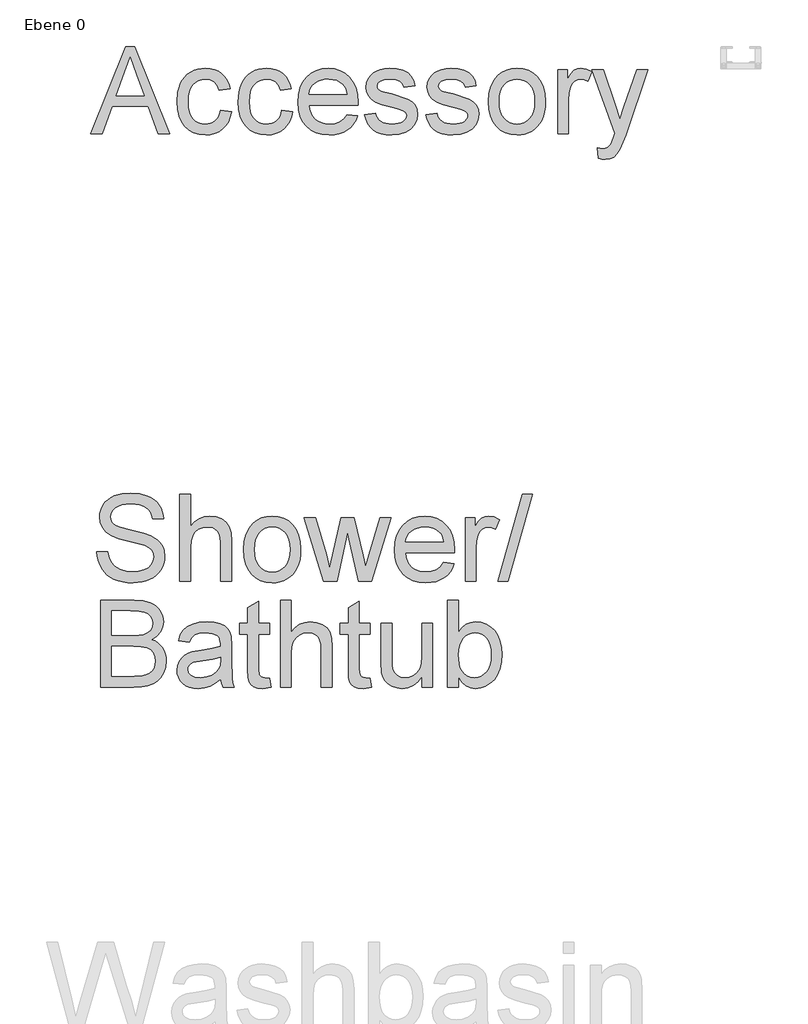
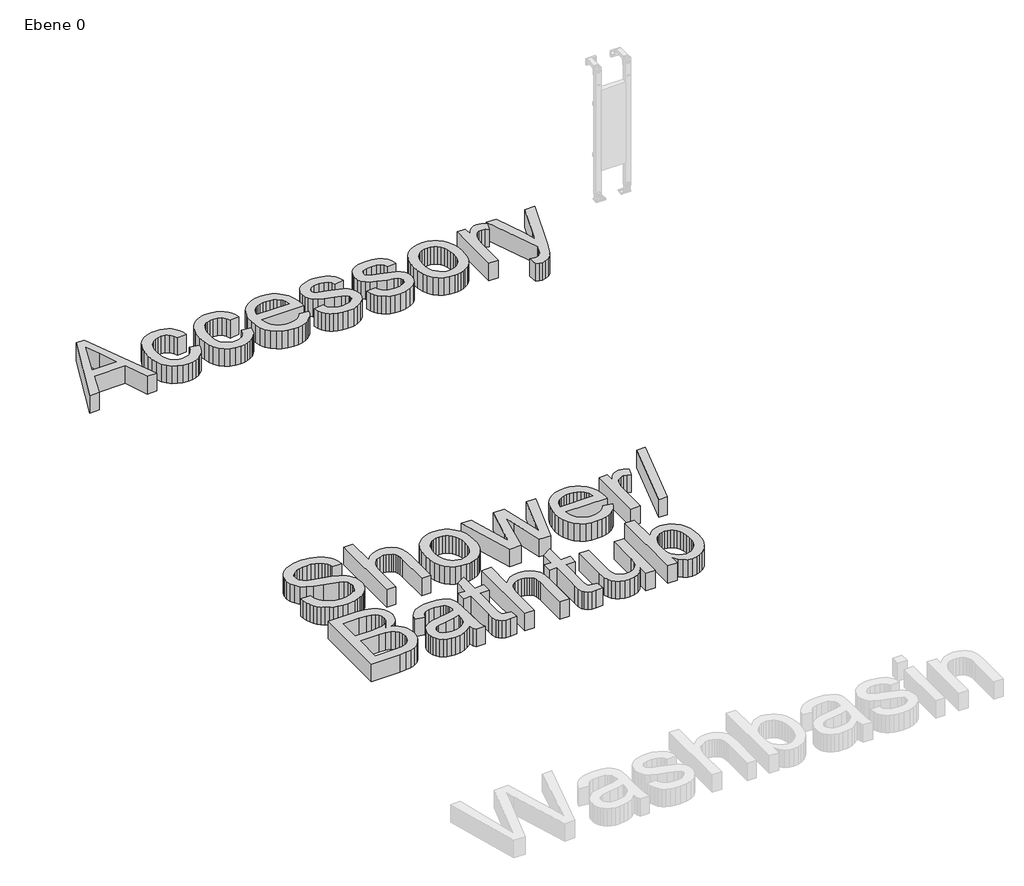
# One storey, part 2 of 2: 2 proxies.
"""IFC4 building model written with IfcOpenShell, lengths in millimetres."""

from ifc_helpers import new_model, si_unit, origin, origin_with_axes, place, context, project, spatial, polyline, outline, extrude, element, save

model = new_model("IFC4")

# Units and contexts
model_context = context("Model", 3, world=origin())
ifc_project = project(units=[si_unit("LENGTHUNIT", "METRE", prefix="MILLI")], contexts=[model_context])

# Site, building, storey
site = spatial("IfcSite", under=ifc_project)
building = spatial("IfcBuilding", under=site)
storey = spatial("IfcBuildingStorey", under=building, Name="Ebene 0", Elevation=0.0)

# Proxies
placement = place(None, origin())
element("IfcBuildingElementProxy", 1, Name="600mm Arial", ObjectType="600mm Arial", at=placement, inside=storey, context=model_context, shape_type="SweptSolid", body=[
    extrude(outline(polyline([(-4365.4096997, 14200.0), (-4124.8148749, 14802.7378609), (-4060.6562549, 14802.7378609), (-3820.2085829, 14200.0), (-3899.8182466, 14200.0), (-3968.6857561, 14388.3555815), (-4217.0796793, 14388.3555815), (-4285.9471888, 14200.0), (-4365.4096997, 14200.0)]), holes=[polyline([(-4189.4149532, 14463.6978141), (-3996.2033294, 14463.6978141), (-4050.6498646, 14611.8806818), (-4092.8827177, 14727.3956283), (-4130.4066812, 14624.830128), (-4189.4149532, 14463.6978141)])]), origin_with_axes(), (0.0, 0.0, 1.0), 150.0),
    extrude(outline(polyline([(-3466.6004091, 14360.1022443), (-3391.2581765, 14350.6844652), (-3399.4527479, 14315.1332689), (-3412.2642384, 14283.6747598), (-3429.6926479, 14256.3089379), (-3451.7379765, 14233.0358032), (-3477.4713221, 14214.4623609), (-3505.9637826, 14201.1956165), (-3537.2153581, 14193.2355698), (-3571.2260485, 14190.5822209), (-3613.4818942, 14194.2840335), (-3651.3691412, 14205.3894712), (-3684.8877895, 14223.8985341), (-3714.0378391, 14249.8112221), (-3737.6328705, 14282.6400917), (-3754.4864644, 14321.8976991), (-3764.5986208, 14367.5840444), (-3767.9693396, 14419.6991275), (-3762.2119863, 14486.7456211), (-3755.0152948, 14516.9165433), (-3744.9399267, 14544.8525823), (-3731.916904, 14569.9927181), (-3715.877249, 14591.7759308), (-3696.8209617, 14610.2022202), (-3674.748042, 14625.2715864), (-3650.6563698, 14636.988628), (-3625.5438251, 14645.3579434), (-3599.4104079, 14650.3795326), (-3572.2561181, 14652.0533957), (-3538.8294403, 14649.7541332), (-3508.5941389, 14642.8563458), (-3481.5502137, 14631.3600334), (-3457.6976648, 14615.2651962), (-3437.4411625, 14594.9397159), (-3421.1853768, 14570.7514747), (-3408.9303078, 14542.7004726), (-3400.6759556, 14510.7867095), (-3476.0181882, 14501.3689304), (-3489.6850043, 14534.2391867), (-3510.9669777, 14557.8020285), (-3538.6868861, 14571.9838794), (-3571.6675069, 14576.7111631), (-3597.2674953, 14574.3843094), (-3620.356689, 14567.4037486), (-3640.9350881, 14555.7694805), (-3659.0026926, 14539.4815051), (-3673.7133739, 14518.1627435), (-3684.2210034, 14491.4361166), (-3690.525581, 14459.3016243), (-3692.6271069, 14421.7592667), (-3690.5715663, 14383.6512905), (-3684.4049444, 14351.1443177), (-3674.1272411, 14324.2383483), (-3659.7384566, 14302.9333823), (-3642.029537, 14286.7419759), (-3621.7914288, 14275.1766857), (-3599.0241318, 14268.2375116), (-3573.7276461, 14265.9244535), (-3534.7137605, 14271.7002009), (-3517.8417725, 14278.919885), (-3502.726421, 14289.0274428), (-3489.7907704, 14302.1332389), (-3479.4578848, 14318.3476378), (-3471.7277644, 14337.6706396), (-3466.6004091, 14360.1022443)])), origin_with_axes(), (0.0, 0.0, 1.0), 150.0),
    extrude(outline(polyline([(-3042.8003507, 14360.1022443), (-2967.458118, 14350.6844652), (-2975.6526895, 14315.1332689), (-2988.46418, 14283.6747598), (-3005.8925895, 14256.3089379), (-3027.9379181, 14233.0358032), (-3053.6712636, 14214.4623609), (-3082.1637241, 14201.1956165), (-3113.4152996, 14193.2355698), (-3147.4259901, 14190.5822209), (-3189.6818358, 14194.2840335), (-3227.5690827, 14205.3894712), (-3261.087731, 14223.8985341), (-3290.2377806, 14249.8112221), (-3313.8328121, 14282.6400917), (-3330.686406, 14321.8976991), (-3340.7985623, 14367.5840444), (-3344.1692811, 14419.6991275), (-3338.4119279, 14486.7456211), (-3331.2152364, 14516.9165433), (-3321.1398682, 14544.8525823), (-3308.1168456, 14569.9927181), (-3292.0771906, 14591.7759308), (-3273.0209032, 14610.2022202), (-3250.9479835, 14625.2715864), (-3226.8563114, 14636.988628), (-3201.7437667, 14645.3579434), (-3175.6103494, 14650.3795326), (-3148.4560597, 14652.0533957), (-3115.0293819, 14649.7541332), (-3084.7940804, 14642.8563458), (-3057.7501552, 14631.3600334), (-3033.8976064, 14615.2651962), (-3013.641104, 14594.9397159), (-2997.3853184, 14570.7514747), (-2985.1302494, 14542.7004726), (-2976.8758971, 14510.7867095), (-3052.2181297, 14501.3689304), (-3065.8849459, 14534.2391867), (-3087.1669193, 14557.8020285), (-3114.8868276, 14571.9838794), (-3147.8674485, 14576.7111631), (-3173.4674368, 14574.3843094), (-3196.5566305, 14567.4037486), (-3217.1350297, 14555.7694805), (-3235.2026341, 14539.4815051), (-3249.9133154, 14518.1627435), (-3260.4209449, 14491.4361166), (-3266.7255226, 14459.3016243), (-3268.8270485, 14421.7592667), (-3266.7715079, 14383.6512905), (-3260.6048859, 14351.1443177), (-3250.3271827, 14324.2383483), (-3235.9383981, 14302.9333823), (-3218.2294786, 14286.7419759), (-3197.9913703, 14275.1766857), (-3175.2240734, 14268.2375116), (-3149.9275877, 14265.9244535), (-3110.9137021, 14271.7002009), (-3094.0417141, 14278.919885), (-3078.9263626, 14289.0274428), (-3065.9907119, 14302.1332389), (-3055.6578264, 14318.3476378), (-3047.927706, 14337.6706396), (-3042.8003507, 14360.1022443)])), origin_with_axes(), (0.0, 0.0, 1.0), 150.0),
    extrude(outline(polyline([(-2591.6298718, 14331.8489071), (-2517.7591671, 14322.431128), (-2529.0853341, 14292.8442185), (-2544.3754295, 14266.7705821), (-2563.6294534, 14244.2102188), (-2586.8474058, 14225.1631285), (-2613.7901635, 14210.0339814), (-2644.218603, 14199.2274478), (-2678.1327244, 14192.7435276), (-2715.5325278, 14190.5822209), (-2762.2811323, 14194.3116246), (-2803.9345712, 14205.4998358), (-2840.4928445, 14224.1468545), (-2871.9559521, 14250.2526805), (-2897.2570363, 14283.0907471), (-2915.3292393, 14321.9344873), (-2926.1725611, 14366.783901), (-2929.7870017, 14417.6389883), (-2926.1357729, 14470.2185225), (-2915.1820865, 14516.5624568), (-2896.9259425, 14556.6707914), (-2871.3673409, 14590.5435261), (-2839.9870067, 14617.454094), (-2804.265665, 14636.6759283), (-2764.2033157, 14648.2090288), (-2719.7999589, 14652.0533957), (-2676.8267433, 14648.2182259), (-2637.9646091, 14636.7127165), (-2603.2135561, 14617.5368675), (-2572.5735844, 14590.6906789), (-2547.5622073, 14556.8915206), (-2529.6969379, 14516.8567624), (-2518.9777763, 14470.5864045), (-2515.4047224, 14418.0804467), (-2515.8461808, 14397.7733606), (-2854.4447691, 14397.7733606), (-2850.080769, 14367.7082046), (-2841.4033524, 14341.3770507), (-2828.4125194, 14318.7798992), (-2811.1082701, 14299.9167499), (-2790.4470975, 14285.0451202), (-2767.385495, 14274.4225276), (-2741.9234624, 14268.0489721), (-2714.0609998, 14265.9244535), (-2673.9618623, 14269.8607909), (-2640.1902951, 14281.6698029), (-2612.7462983, 14302.0872537), (-2591.6298718, 14331.8489071)]), holes=[polyline([(-2854.4447691, 14473.1155932), (-2590.746955, 14473.1155932), (-2600.9372863, 14512.9204251), (-2609.7020748, 14528.573804), (-2620.9132786, 14541.3944915), (-2641.459488, 14556.8455353), (-2664.8383888, 14567.8819952), (-2691.049981, 14574.5038711), (-2720.0942645, 14576.7111631), (-2746.5863667, 14574.949928), (-2770.8803739, 14569.6662229), (-2792.9762863, 14560.8600476), (-2812.8741037, 14548.5314022), (-2829.5713477, 14533.2505039), (-2842.06554, 14515.5875696), (-2850.3566805, 14495.5425994), (-2854.4447691, 14473.1155932)])]), origin_with_axes(), (0.0, 0.0, 1.0), 150.0),
    extrude(outline(polyline([(-2468.315827, 14331.8489071), (-2392.9735944, 14341.2666861), (-2388.4210547, 14324.086597), (-2381.0910059, 14309.0402234), (-2370.9834481, 14296.1275653), (-2358.0983812, 14285.3486229), (-2342.3990171, 14276.8505488), (-2323.8485675, 14270.7804959), (-2278.1944119, 14265.9244535), (-2233.0920793, 14270.3758257), (-2215.5625022, 14275.9400409), (-2201.3806513, 14283.7299421), (-2182.6186695, 14303.080535), (-2177.9281741, 14313.9146598), (-2176.3646756, 14325.5213368), (-2177.9373712, 14335.6932739), (-2182.6554577, 14344.7247769), (-2201.5278041, 14359.3664803), (-2229.7443531, 14368.9314122), (-2279.0773287, 14380.8507888), (-2347.8344736, 14400.7348107), (-2392.532136, 14417.7125647), (-2421.2453257, 14436.2354232), (-2442.0490525, 14460.7547582), (-2454.6857991, 14489.7070712), (-2458.8980479, 14521.5288638), (-2455.5135336, 14550.7203001), (-2445.3599905, 14577.6676562), (-2429.3571237, 14601.3040744), (-2408.4246382, 14620.5626969), (-2387.6209114, 14632.6844086), (-2360.5264024, 14642.8563458), (-2329.2012505, 14649.7541332), (-2295.7055949, 14652.0533957), (-2246.6669249, 14648.3561816), (-2204.0294017, 14637.2645395), (-2169.7427997, 14619.8637211), (-2145.7568936, 14597.2389784), (-2129.8643914, 14567.7164483), (-2119.8580012, 14529.6222677), (-2195.2002338, 14520.2044886), (-2204.7099833, 14543.9144832), (-2223.5271474, 14561.7751541), (-2251.8356669, 14572.9771608), (-2289.8194829, 14576.7111631), (-2333.0824056, 14573.1427077), (-2361.924354, 14562.4373416), (-2378.14795, 14546.9862979), (-2383.5558153, 14529.1808093), (-2381.3117351, 14517.5925264), (-2374.5794946, 14507.2550424), (-2363.0647882, 14498.0212043), (-2346.4733102, 14490.6267762), (-2281.5789262, 14474.5871212), (-2170.9935985, 14439.1232969), (-2141.7837681, 14422.1639369), (-2119.637272, 14398.950583), (-2105.6761502, 14369.4096588), (-2101.022443, 14333.4675879), (-2106.4854906, 14296.3115063), (-2122.8746335, 14261.3627168), (-2149.5644723, 14231.3619401), (-2185.9296075, 14209.0498971), (-2229.8547177, 14195.19914), (-2279.2244815, 14190.5822209), (-2319.7742744, 14192.807907), (-2355.1921135, 14199.4849652), (-2385.4779987, 14210.6133956), (-2410.6319302, 14226.1931981), (-2431.1781396, 14246.1507963), (-2447.6408589, 14270.4126139), (-2460.020088, 14298.9786508), (-2468.315827, 14331.8489071)])), origin_with_axes(), (0.0, 0.0, 1.0), 150.0),
    extrude(outline(polyline([(-2044.5157686, 14331.8489071), (-1969.1735359, 14341.2666861), (-1964.6209962, 14324.086597), (-1957.2909475, 14309.0402234), (-1947.1833897, 14296.1275653), (-1934.2983228, 14285.3486229), (-1918.5989587, 14276.8505488), (-1900.048509, 14270.7804959), (-1854.3943534, 14265.9244535), (-1809.2920208, 14270.3758257), (-1791.7624438, 14275.9400409), (-1777.5805928, 14283.7299421), (-1758.8186111, 14303.080535), (-1754.1281157, 14313.9146598), (-1752.5646172, 14325.5213368), (-1754.1373127, 14335.6932739), (-1758.8553993, 14344.7247769), (-1777.7277456, 14359.3664803), (-1805.9442947, 14368.9314122), (-1855.2772702, 14380.8507888), (-1924.0344151, 14400.7348107), (-1968.7320775, 14417.7125647), (-1997.4452673, 14436.2354232), (-2018.2489941, 14460.7547582), (-2030.8857406, 14489.7070712), (-2035.0979895, 14521.5288638), (-2031.7134751, 14550.7203001), (-2021.5599321, 14577.6676562), (-2005.5570653, 14601.3040744), (-1984.6245797, 14620.5626969), (-1963.8208529, 14632.6844086), (-1936.726344, 14642.8563458), (-1905.4011921, 14649.7541332), (-1871.9055364, 14652.0533957), (-1822.8668665, 14648.3561816), (-1780.2293432, 14637.2645395), (-1745.9427413, 14619.8637211), (-1721.9568352, 14597.2389784), (-1706.064333, 14567.7164483), (-1696.0579427, 14529.6222677), (-1771.4001753, 14520.2044886), (-1780.9099249, 14543.9144832), (-1799.727089, 14561.7751541), (-1828.0356085, 14572.9771608), (-1866.0194245, 14576.7111631), (-1909.2823471, 14573.1427077), (-1938.1242955, 14562.4373416), (-1954.3478915, 14546.9862979), (-1959.7557569, 14529.1808093), (-1957.5116767, 14517.5925264), (-1950.7794362, 14507.2550424), (-1939.2647297, 14498.0212043), (-1922.6732517, 14490.6267762), (-1857.7788678, 14474.5871212), (-1747.19354, 14439.1232969), (-1717.9837096, 14422.1639369), (-1695.8372135, 14398.950583), (-1681.8760918, 14369.4096588), (-1677.2223846, 14333.4675879), (-1682.6854322, 14296.3115063), (-1699.0745751, 14261.3627168), (-1725.7644138, 14231.3619401), (-1762.1295491, 14209.0498971), (-1806.0546593, 14195.19914), (-1855.424423, 14190.5822209), (-1895.9742159, 14192.807907), (-1931.392055, 14199.4849652), (-1961.6779403, 14210.6133956), (-1986.8318717, 14226.1931981), (-2007.3780811, 14246.1507963), (-2023.8408004, 14270.4126139), (-2036.2200296, 14298.9786508), (-2044.5157686, 14331.8489071)])), origin_with_axes(), (0.0, 0.0, 1.0), 150.0),
    extrude(outline(polyline([(-1611.297931, 14421.3178083), (-1607.2236379, 14478.6430202), (-1595.0007586, 14528.0403751), (-1574.6292932, 14569.509873), (-1546.1092415, 14603.0515139), (-1517.3960518, 14624.4898372), (-1485.7030179, 14639.8029252), (-1451.0301398, 14648.9907781), (-1413.3774176, 14652.0533957), (-1371.8113507, 14648.3239919), (-1334.2276064, 14637.1357808), (-1300.6261846, 14618.4887621), (-1271.0070855, 14592.3829361), (-1246.8326399, 14559.7012193), (-1229.5651787, 14521.3265287), (-1219.204702, 14477.2588642), (-1215.7512098, 14427.4982258), (-1217.2779201, 14387.1691621), (-1221.8580509, 14351.383441), (-1229.4916023, 14320.1410626), (-1240.1785743, 14293.4420268), (-1253.7856096, 14270.3804242), (-1270.179351, 14250.0503454), (-1289.3597985, 14232.4517905), (-1311.3269522, 14217.5847594), (-1335.2254863, 14205.7711488), (-1360.2000752, 14197.3328555), (-1386.250719, 14192.2698796), (-1413.3774176, 14190.5822209), (-1455.5504898, 14194.2978291), (-1493.4837221, 14205.4446535), (-1527.1771143, 14224.0226943), (-1556.6306665, 14250.0319513), (-1580.5475948, 14283.0309663), (-1597.6311149, 14322.5782808), (-1607.881227, 14368.6738948), (-1611.297931, 14421.3178083)]), holes=[polyline([(-1535.9556984, 14421.4649611), (-1533.7759976, 14384.9204834), (-1527.2368951, 14353.2780333), (-1516.338391, 14326.5376108), (-1501.0804853, 14304.6992158), (-1482.5208386, 14287.7352573), (-1461.7171118, 14275.6181441), (-1438.6693048, 14268.3478762), (-1413.3774176, 14265.9244535), (-1388.2142892, 14268.3616718), (-1365.2584527, 14275.6733264), (-1344.5099081, 14287.8594175), (-1325.9686556, 14304.919945), (-1310.7107498, 14326.9744706), (-1299.8122457, 14354.142556), (-1293.2731432, 14386.4242011), (-1291.0934424, 14423.8194059), (-1293.2869388, 14459.2050553), (-1299.867428, 14490.0197709), (-1310.83491, 14516.2635527), (-1326.1893848, 14537.9364008), (-1344.7996152, 14554.9003593), (-1365.5343642, 14567.0174725), (-1388.3936316, 14574.2877404), (-1413.3774176, 14576.7111631), (-1438.6693048, 14574.2969375), (-1461.7171118, 14567.0542607), (-1482.5208386, 14554.9831327), (-1501.0804853, 14538.0835536), (-1516.338391, 14516.309538), (-1527.2368951, 14489.6151007), (-1533.7759976, 14458.0002417), (-1535.9556984, 14421.4649611)])]), origin_with_axes(), (0.0, 0.0, 1.0), 150.0),
    extrude(outline(polyline([(-1130.9911981, 14200.0), (-1130.9911981, 14642.6356166), (-1065.0667446, 14642.6356166), (-1065.0667446, 14577.1526215), (-1040.7129565, 14615.1180434), (-1018.2721548, 14637.4852687), (-995.7577767, 14648.4113639), (-971.1832594, 14652.0533957), (-933.6592959, 14646.2408601), (-895.5467212, 14628.8032536), (-920.7098497, 14561.2601193), (-947.1973533, 14572.8484021), (-973.684857, 14576.7111631), (-996.180841, 14572.9955549), (-1016.285592, 14561.8487305), (-1032.5275821, 14544.1168183), (-1043.4352833, 14520.645947), (-1052.595545, 14478.5602467), (-1055.6489655, 14432.6485737), (-1055.6489655, 14200.0), (-1130.9911981, 14200.0)])), origin_with_axes(), (0.0, 0.0, 1.0), 150.0),
    extrude(outline(polyline([(-848.4578258, 14030.4799766), (-857.8756049, 14103.0263061), (-819.6158774, 14096.4044302), (-799.4927323, 14098.4829634), (-783.8577475, 14104.7185632), (-771.6808534, 14114.6697712), (-761.9319806, 14127.8951289), (-741.3305888, 14183.3717338), (-735.4444769, 14201.6186808), (-895.5467212, 14642.6356166), (-816.2313631, 14642.6356166), (-731.1770458, 14396.743291), (-701.5993334, 14298.4452219), (-672.0216209, 14385.4125256), (-584.7600117, 14642.6356166), (-506.0332647, 14642.6356166), (-660.1022443, 14189.4049985), (-700.1278054, 14091.1069294), (-720.6188325, 14059.7265952), (-743.8321864, 14037.9847693), (-770.7611485, 14025.2928405), (-802.399, 14021.0621975), (-824.2879787, 14023.4166423), (-848.4578258, 14030.4799766)])), origin_with_axes(), (0.0, 0.0, 1.0), 150.0),
])
element("IfcBuildingElementProxy", 2, Name="600mm Arial", ObjectType="600mm Arial", at=placement, inside=storey, context=model_context, shape_type="SweptSolid", body=[
    extrude(outline(polyline([(-4323.6183051, 11307.1911397), (-4248.2760725, 11307.1911397), (-4239.6308456, 11265.3813509), (-4223.9958608, 11231.7753307), (-4199.6052845, 11205.103886), (-4164.6932832, 11184.0978241), (-4122.0189717, 11170.4677962), (-4074.3414651, 11165.9244535), (-4032.3661295, 11169.3641502), (-3995.6147182, 11179.6832402), (-3965.8346707, 11196.0172007), (-3944.7734264, 11217.5015093), (-3932.2470445, 11242.167997), (-3928.0715839, 11268.0484954), (-3931.1985808, 11293.2668062), (-3940.5795717, 11315.0638144), (-3959.635859, 11333.6602492), (-3991.7887454, 11349.2768399), (-4101.4911564, 11378.045212), (-4173.5040569, 11397.0831052), (-4219.5812768, 11415.2012935), (-4257.0868462, 11440.5483629), (-4283.6663204, 11471.2665095), (-4299.5036403, 11506.6935457), (-4304.7827469, 11546.1672838), (-4303.1502706, 11568.6034869), (-4298.2528415, 11590.2947291), (-4290.0904597, 11611.2410102), (-4278.6631253, 11631.4423302), (-4264.0995968, 11650.0755533), (-4246.528633, 11666.3175434), (-4225.9502339, 11680.1683005), (-4202.3643995, 11691.6278246), (-4149.352604, 11707.0236861), (-4090.6754257, 11712.15564), (-4027.105417, 11706.7845628), (-3971.4816593, 11690.6713315), (-3947.1462653, 11678.6691814), (-3925.7907155, 11664.1470396), (-3907.4150098, 11647.1049062), (-3892.0191483, 11627.5427811), (-3879.7226926, 11606.0308814), (-3870.6452044, 11583.1394243), (-3864.7866836, 11558.8684096), (-3862.1471303, 11533.2178375), (-3937.4893629, 11533.2178375), (-3942.5293463, 11557.2589259), (-3951.321726, 11578.1730173), (-3963.866502, 11595.9601118), (-3980.1636744, 11610.6202093), (-4000.5167458, 11622.0797335), (-4025.2292188, 11630.2651078), (-4054.3010935, 11635.1763325), (-4087.7323698, 11636.8134074), (-4122.2305039, 11635.1947266), (-4151.7070487, 11630.3386842), (-4176.1620044, 11622.2452804), (-4195.5953707, 11610.9145149), (-4210.4026211, 11597.293684), (-4220.9792284, 11582.3300839), (-4227.3251928, 11566.0237144), (-4229.4405143, 11548.3745757), (-4227.9413952, 11533.1902464), (-4223.4440378, 11519.4222627), (-4215.9484421, 11507.0706247), (-4205.4546082, 11496.1353324), (-4188.9367066, 11485.7794542), (-4162.9274496, 11475.3132115), (-4082.434869, 11454.0496322), (-3999.3671145, 11433.8529106), (-3949.114434, 11416.2313631), (-3906.164211, 11388.8977308), (-3889.5589375, 11372.8304847), (-3876.2002225, 11355.1629519), (-3865.9317163, 11335.9871029), (-3858.5970691, 11315.3949082), (-3852.7293512, 11269.9614818), (-3854.4170099, 11246.3940415), (-3859.4799859, 11223.5163799), (-3867.9182791, 11201.328497), (-3879.7318897, 11179.830393), (-3894.7138839, 11159.8544006), (-3912.6573283, 11142.232853), (-3933.5622226, 11126.9657502), (-3957.4285671, 11114.0530922), (-3983.5619843, 11103.784586), (-4011.2680971, 11096.4499387), (-4071.3984092, 11090.5822209), (-4109.9386467, 11092.1641135), (-4145.2139315, 11096.9097912), (-4177.2242636, 11104.8192541), (-4205.969643, 11115.8925022), (-4231.6248137, 11130.1479295), (-4254.3645195, 11147.6039302), (-4274.1887605, 11168.2605042), (-4291.0975367, 11192.1176516), (-4304.7183676, 11218.4028201), (-4314.6787726, 11246.3434577), (-4320.9787518, 11275.9395642), (-4323.6183051, 11307.1911397)])), origin_with_axes(), (0.0, 0.0, 1.0), 150.0),
    extrude(outline(polyline([(-3749.1337814, 11100.0), (-3749.1337814, 11702.7378609), (-3673.7915488, 11702.7378609), (-3673.7915488, 11481.125747), (-3646.1176257, 11512.1565933), (-3615.0407942, 11534.3214835), (-3580.5610542, 11547.6204176), (-3542.6784057, 11552.0533957), (-3497.1714029, 11547.2157474), (-3458.0655468, 11532.7028027), (-3427.2738238, 11509.6549957), (-3406.7092203, 11479.2127606), (-3395.1209374, 11437.3845778), (-3391.2581765, 11380.1789275), (-3391.2581765, 11100.0), (-3466.6004091, 11100.0), (-3466.6004091, 11372.3798292), (-3468.0995282, 11397.8188692), (-3472.5968856, 11419.542301), (-3480.0924813, 11437.5501247), (-3490.5863152, 11451.8423402), (-3503.830067, 11462.7224502), (-3519.5754164, 11470.4939573), (-3537.8223634, 11475.1568616), (-3558.5709079, 11476.7111631), (-3590.4110946, 11472.5173083), (-3620.3015067, 11459.9357441), (-3645.059965, 11440.1804809), (-3661.5042902, 11414.4655295), (-3670.7197341, 11380.2892921), (-3673.7915488, 11335.1501713), (-3673.7915488, 11100.0), (-3749.1337814, 11100.0)])), origin_with_axes(), (0.0, 0.0, 1.0), 150.0),
    extrude(outline(polyline([(-3306.4981648, 11321.3178083), (-3302.4238717, 11378.6430202), (-3290.2009924, 11428.0403751), (-3269.8295269, 11469.509873), (-3241.3094753, 11503.0515139), (-3212.5962855, 11524.4898372), (-3180.9032517, 11539.8029252), (-3146.2303736, 11548.9907781), (-3108.5776514, 11552.0533957), (-3067.0115845, 11548.3239919), (-3029.4278401, 11537.1357808), (-2995.8264184, 11518.4887621), (-2966.2073193, 11492.3829361), (-2942.0328737, 11459.7012193), (-2924.7654125, 11421.3265287), (-2914.4049358, 11377.2588642), (-2910.9514436, 11327.4982258), (-2912.4781539, 11287.1691621), (-2917.0582847, 11251.383441), (-2924.6918361, 11220.1410626), (-2935.3788081, 11193.4420268), (-2948.9858434, 11170.3804242), (-2965.3795848, 11150.0503454), (-2984.5600323, 11132.4517905), (-3006.5271859, 11117.5847594), (-3030.42572, 11105.7711488), (-3055.400309, 11097.3328555), (-3081.4509528, 11092.2698796), (-3108.5776514, 11090.5822209), (-3150.7507236, 11094.2978291), (-3188.6839558, 11105.4446535), (-3222.3773481, 11124.0226943), (-3251.8309003, 11150.0319513), (-3275.7478285, 11183.0309663), (-3292.8313487, 11222.5782808), (-3303.0814608, 11268.6738948), (-3306.4981648, 11321.3178083)]), holes=[polyline([(-3231.1559322, 11321.4649611), (-3228.9762314, 11284.9204834), (-3222.4371289, 11253.2780333), (-3211.5386248, 11226.5376108), (-3196.280719, 11204.6992158), (-3177.7210724, 11187.7352573), (-3156.9173456, 11175.6181441), (-3133.8695386, 11168.3478762), (-3108.5776514, 11165.9244535), (-3083.4145229, 11168.3616718), (-3060.4586864, 11175.6733264), (-3039.7101419, 11187.8594175), (-3021.1688893, 11204.919945), (-3005.9109836, 11226.9744706), (-2995.0124795, 11254.142556), (-2988.473377, 11286.4242011), (-2986.2936762, 11323.8194059), (-2988.4871726, 11359.2050553), (-2995.0676618, 11390.0197709), (-3006.0351438, 11416.2635527), (-3021.3896185, 11437.9364008), (-3039.999849, 11454.9003593), (-3060.7345979, 11467.0174725), (-3083.5938654, 11474.2877404), (-3108.5776514, 11476.7111631), (-3133.8695386, 11474.2969375), (-3156.9173456, 11467.0542607), (-3177.7210724, 11454.9831327), (-3196.280719, 11438.0835536), (-3211.5386248, 11416.309538), (-3222.4371289, 11389.6151007), (-3228.9762314, 11358.0002417), (-3231.1559322, 11321.4649611)])]), origin_with_axes(), (0.0, 0.0, 1.0), 150.0),
    extrude(outline(polyline([(-2752.1735745, 11100.0), (-2887.4069959, 11542.6356166), (-2809.2688601, 11542.6356166), (-2732.7494051, 11284.382456), (-2709.9407214, 11192.1176516), (-2691.2523161, 11280.9979416), (-2630.4782105, 11542.6356166), (-2541.0093092, 11542.6356166), (-2480.2352036, 11281.7337056), (-2463.6069375, 11201.2411251), (-2439.7681842, 11286.1482896), (-2363.2487292, 11542.6356166), (-2284.669135, 11542.6356166), (-2420.3440148, 11100.0), (-2511.284444, 11100.0), (-2569.2626465, 11359.5775358), (-2586.0380655, 11440.5115747), (-2660.6445341, 11100.0), (-2752.1735745, 11100.0)])), origin_with_axes(), (0.0, 0.0, 1.0), 150.0),
    extrude(outline(polyline([(-1922.9675573, 11231.8489071), (-1849.0968527, 11222.431128), (-1860.4230196, 11192.8442185), (-1875.7131151, 11166.7705821), (-1894.967139, 11144.2102188), (-1918.1850914, 11125.1631285), (-1945.127849, 11110.0339814), (-1975.5562886, 11099.2274478), (-2009.47041, 11092.7435276), (-2046.8702133, 11090.5822209), (-2093.6188179, 11094.3116246), (-2135.2722568, 11105.4998358), (-2171.83053, 11124.1468545), (-2203.2936377, 11150.2526805), (-2228.5947219, 11183.0907471), (-2246.6669249, 11221.9344873), (-2257.5102467, 11266.783901), (-2261.1246873, 11317.6389883), (-2257.4734585, 11370.2185225), (-2246.5197721, 11416.5624568), (-2228.2636281, 11456.6707914), (-2202.7050265, 11490.5435261), (-2171.3246923, 11517.454094), (-2135.6033506, 11536.6759283), (-2095.5410013, 11548.2090288), (-2051.1376445, 11552.0533957), (-2008.1644289, 11548.2182259), (-1969.3022946, 11536.7127165), (-1934.5512417, 11517.5368675), (-1903.91127, 11490.6906789), (-1878.8998928, 11456.8915206), (-1861.0346235, 11416.8567624), (-1850.3154618, 11370.5864045), (-1846.7424079, 11318.0804467), (-1847.1838663, 11297.7733606), (-2185.7824547, 11297.7733606), (-2181.4184545, 11267.7082046), (-2172.741038, 11241.3770507), (-2159.750205, 11218.7798992), (-2142.4459557, 11199.9167499), (-2121.7847831, 11185.0451202), (-2098.7231805, 11174.4225276), (-2073.2611479, 11168.0489721), (-2045.3986853, 11165.9244535), (-2005.2995479, 11169.8607909), (-1971.5279807, 11181.6698029), (-1944.0839839, 11202.0872537), (-1922.9675573, 11231.8489071)]), holes=[polyline([(-2185.7824547, 11373.1155932), (-1922.0846406, 11373.1155932), (-1932.2749718, 11412.9204251), (-1941.0397604, 11428.573804), (-1952.2509642, 11441.3944915), (-1972.7971736, 11456.8455353), (-1996.1760744, 11467.8819952), (-2022.3876665, 11474.5038711), (-2051.4319501, 11476.7111631), (-2077.9240522, 11474.949928), (-2102.2180595, 11469.6662229), (-2124.3139718, 11460.8600476), (-2144.2117892, 11448.5314022), (-2160.9090333, 11433.2505039), (-2173.4032256, 11415.5875696), (-2181.694366, 11395.5425994), (-2185.7824547, 11373.1155932)])]), origin_with_axes(), (0.0, 0.0, 1.0), 150.0),
    extrude(outline(polyline([(-1545.3734775, 11100.0), (-1375.8534541, 11702.7378609), (-1307.5745558, 11702.7378609), (-1477.241732, 11100.0), (-1545.3734775, 11100.0)])), origin_with_axes(), (0.0, 0.0, 1.0), 150.0),
    extrude(outline(polyline([(-1771.4001753, 11100.0), (-1771.4001753, 11542.6356166), (-1705.4757218, 11542.6356166), (-1705.4757218, 11477.1526215), (-1681.1219337, 11515.1180434), (-1658.681132, 11537.4852687), (-1636.1667539, 11548.4113639), (-1611.5922366, 11552.0533957), (-1574.0682731, 11546.2408601), (-1535.9556984, 11528.8032536), (-1561.1188269, 11461.2601193), (-1587.6063305, 11472.8484021), (-1614.0938342, 11476.7111631), (-1636.5898182, 11472.9955549), (-1656.6945692, 11461.8487305), (-1672.9365593, 11444.1168183), (-1683.8442605, 11420.645947), (-1693.0045222, 11378.5602467), (-1696.0579427, 11332.6485737), (-1696.0579427, 11100.0), (-1771.4001753, 11100.0)])), origin_with_axes(), (0.0, 0.0, 1.0), 150.0),
    extrude(outline(polyline([(-4295.3649678, 10368.1510929), (-4295.3649678, 10970.8889538), (-4065.3651445, 10970.8889538), (-4002.1078354, 10966.4559758), (-3952.7196775, 10953.1570417), (-3932.6425176, 10943.1000676), (-3914.8646202, 10930.6610577), (-3899.3859853, 10915.8400118), (-3886.2066128, 10898.63693), (-3868.1620009, 10860.9658137), (-3862.1471303, 10821.5288638), (-3867.2055078, 10785.237305), (-3882.3806401, 10751.1162499), (-3907.7828918, 10721.262626), (-3943.5226277, 10697.7733606), (-3920.7829218, 10688.07967), (-3900.8299221, 10675.4797117), (-3883.6636285, 10659.9734856), (-3869.284041, 10641.5609917), (-3857.9210859, 10620.8032502), (-3849.8046894, 10598.2612809), (-3844.9348515, 10573.935084), (-3843.3115722, 10547.8246594), (-3847.7445502, 10505.7941414), (-3861.0434843, 10466.817044), (-3880.890718, 10433.6708763), (-3904.9685946, 10409.1331472), (-3934.4543365, 10391.3644468), (-3970.5251661, 10378.5253652), (-4014.3583058, 10370.744661), (-4067.130978, 10368.1510929), (-4295.3649678, 10368.1510929)]), holes=[polyline([(-4220.0227352, 10726.0266978), (-4082.434869, 10726.0266978), (-4034.3159041, 10727.6453786), (-4002.0894413, 10732.501421), (-3973.9648628, 10743.6666395), (-3953.7497471, 10760.3868762), (-3941.554459, 10782.4046136), (-3937.4893629, 10809.4623343), (-3941.2785475, 10835.7291088), (-3952.6461011, 10858.6113689), (-3971.0769891, 10876.4720398), (-3996.0561766, 10887.6740465), (-4034.3894805, 10893.5785525), (-4092.8827177, 10895.5467212), (-4220.0227352, 10895.5467212), (-4220.0227352, 10726.0266978)]), polyline([(-4220.0227352, 10443.4933255), (-4065.5122973, 10443.4933255), (-4009.594234, 10446.4363815), (-3983.6401592, 10452.9662869), (-3962.2846094, 10462.8439185), (-3944.9205792, 10476.9889812), (-3930.9410634, 10496.32118), (-3921.7256194, 10519.9759923), (-3918.6538048, 10547.0888954), (-3922.2590483, 10578.5795942), (-3933.074779, 10605.655709), (-3951.9655194, 10626.8273178), (-3979.7957924, 10640.6044986), (-4019.2143482, 10648.1644736), (-4072.8699372, 10650.6844652), (-4220.0227352, 10650.6844652), (-4220.0227352, 10443.4933255)])]), origin_with_axes(), (0.0, 0.0, 1.0), 150.0),
    extrude(outline(polyline([(-3466.6004091, 10424.6577674), (-3502.5976623, 10393.792468), (-3539.6617733, 10373.5957465), (-3578.6388707, 10362.448922), (-3620.3750831, 10358.7333139), (-3653.9213225, 10360.968197), (-3683.3380866, 10367.6728463), (-3708.6253752, 10378.8472619), (-3729.7831885, 10394.4914438), (-3746.4896296, 10413.6121105), (-3758.4228018, 10435.2159806), (-3765.5827051, 10459.3030543), (-3767.9693396, 10485.8733314), (-3764.364096, 10517.1065128), (-3753.5483653, 10545.4702146), (-3736.8649169, 10569.7504263), (-3715.6565198, 10588.7331372), (-3690.7325147, 10603.080535), (-3662.9022417, 10613.4548073), (-3597.7135522, 10624.7855728), (-3520.6790624, 10636.7049494), (-3467.0418675, 10650.6844652), (-3466.6004091, 10667.4598842), (-3471.7875452, 10701.0842986), (-3478.2714654, 10713.5371041), (-3487.3489536, 10723.0836419), (-3503.0391207, 10732.6117856), (-3522.1505904, 10739.4176025), (-3570.6374373, 10744.862256), (-3615.5190408, 10741.2386183), (-3646.8625867, 10730.3677054), (-3668.2365307, 10710.2629543), (-3683.2093279, 10678.9378025), (-3758.5515605, 10688.3555815), (-3745.4733555, 10729.558365), (-3725.9572157, 10761.9319806), (-3698.1821251, 10786.6904388), (-3660.3270678, 10805.0477504), (-3614.0291187, 10816.4153041), (-3560.9253527, 10820.2044886), (-3509.9920904, 10816.8567624), (-3469.6170415, 10806.813584), (-3439.1748064, 10791.7120281), (-3418.0399857, 10773.1891696), (-3404.0236817, 10750.2885154), (-3394.9369964, 10722.0535723), (-3391.2581765, 10656.1291188), (-3391.2581765, 10562.3927864), (-3387.4322037, 10431.5003725), (-3381.766821, 10399.145151), (-3372.4226183, 10368.1510929), (-3447.764851, 10368.1510929), (-3459.8313804, 10394.344291), (-3466.6004091, 10424.6577674)]), holes=[polyline([(-3466.6004091, 10575.3422326), (-3517.2209716, 10562.7974566), (-3588.1486203, 10552.2392433), (-3652.9694279, 10540.0255611), (-3669.8368173, 10531.6746398), (-3682.3264111, 10520.1599333), (-3690.051933, 10506.3643585), (-3692.6271069, 10491.1708321), (-3687.0169065, 10468.7668186), (-3670.1863052, 10450.4095071), (-3642.5031851, 10438.1590366), (-3604.3354281, 10434.0755465), (-3563.8684086, 10438.5821009), (-3528.1102787, 10452.1017642), (-3499.1211775, 10472.0225743), (-3478.9612441, 10495.7325689), (-3470.0217117, 10520.1599333), (-3467.0418675, 10554.0050769), (-3466.6004091, 10575.3422326)])]), origin_with_axes(), (0.0, 0.0, 1.0), 150.0),
    extrude(outline(polyline([(-3127.5603624, 10430.9853377), (-3118.1425833, 10365.943801), (-3174.5021049, 10358.7333139), (-3210.6649051, 10361.8603108), (-3237.6306553, 10371.2413017), (-3256.6869427, 10385.6990641), (-3269.1213541, 10404.0563757), (-3275.9639592, 10435.5838626), (-3278.2448276, 10489.5521513), (-3278.2448276, 10735.4444769), (-3334.751502, 10735.4444769), (-3334.751502, 10810.7867095), (-3278.2448276, 10810.7867095), (-3278.2448276, 10918.3554049), (-3202.902595, 10962.6483971), (-3202.902595, 10810.7867095), (-3127.5603624, 10810.7867095), (-3127.5603624, 10735.4444769), (-3202.902595, 10735.4444769), (-3202.902595, 10491.7594433), (-3198.9294694, 10452.9111046), (-3186.0535996, 10439.152318), (-3175.1826866, 10435.3447393), (-3160.3754363, 10434.0755465), (-3127.5603624, 10430.9853377)])), origin_with_axes(), (0.0, 0.0, 1.0), 150.0),
    extrude(outline(polyline([(-3052.2181297, 10368.1510929), (-3052.2181297, 10970.8889538), (-2976.8758971, 10970.8889538), (-2976.8758971, 10749.2768399), (-2949.201974, 10780.3076862), (-2918.1251425, 10802.4725764), (-2883.6454025, 10815.7715106), (-2845.762754, 10820.2044886), (-2800.2557512, 10815.3668404), (-2761.1498952, 10800.8538957), (-2730.3581722, 10777.8060887), (-2709.7935686, 10747.3638536), (-2698.2052858, 10705.5356707), (-2694.3425248, 10648.3300205), (-2694.3425248, 10368.1510929), (-2769.6847574, 10368.1510929), (-2769.6847574, 10640.5309222), (-2771.1838766, 10665.9699621), (-2775.681234, 10687.6933939), (-2783.1768296, 10705.7012176), (-2793.6706635, 10719.9934331), (-2806.9144154, 10730.8735431), (-2822.6597647, 10738.6450503), (-2840.9067117, 10743.3079546), (-2861.6552562, 10744.862256), (-2893.4954429, 10740.6684012), (-2923.385855, 10728.086837), (-2948.1443133, 10708.3315739), (-2964.5886385, 10682.6166224), (-2973.8040825, 10648.4403851), (-2976.8758971, 10603.3012642), (-2976.8758971, 10368.1510929), (-3052.2181297, 10368.1510929)])), origin_with_axes(), (0.0, 0.0, 1.0), 150.0),
    extrude(outline(polyline([(-2430.6447107, 10430.9853377), (-2421.2269316, 10365.943801), (-2477.5864533, 10358.7333139), (-2513.7492534, 10361.8603108), (-2540.7150036, 10371.2413017), (-2559.771291, 10385.6990641), (-2572.2057024, 10404.0563757), (-2579.0483075, 10435.5838626), (-2581.3291759, 10489.5521513), (-2581.3291759, 10735.4444769), (-2637.8358504, 10735.4444769), (-2637.8358504, 10810.7867095), (-2581.3291759, 10810.7867095), (-2581.3291759, 10918.3554049), (-2505.9869433, 10962.6483971), (-2505.9869433, 10810.7867095), (-2430.6447107, 10810.7867095), (-2430.6447107, 10735.4444769), (-2505.9869433, 10735.4444769), (-2505.9869433, 10491.7594433), (-2502.0138178, 10452.9111046), (-2489.1379479, 10439.152318), (-2478.267035, 10435.3447393), (-2463.4597847, 10434.0755465), (-2430.6447107, 10430.9853377)])), origin_with_axes(), (0.0, 0.0, 1.0), 150.0),
    extrude(outline(polyline([(-2072.7691058, 10368.1510929), (-2072.7691058, 10444.2290895), (-2100.0291616, 10406.8246877), (-2131.7773778, 10380.1072578), (-2168.0137543, 10364.0767998), (-2208.7382912, 10358.7333139), (-2245.4345202, 10362.4857102), (-2279.5923635, 10373.7428993), (-2308.2503709, 10390.665471), (-2328.4470924, 10411.4140156), (-2342.0403321, 10436.6139322), (-2350.8878941, 10466.8906204), (-2355.3024781, 10536.9353523), (-2355.3024781, 10810.7867095), (-2279.9602455, 10810.7867095), (-2279.9602455, 10572.3991767), (-2278.8198113, 10524.7216701), (-2275.3985087, 10495.5854161), (-2264.4172312, 10469.9624351), (-2245.6000671, 10450.4830834), (-2220.1978153, 10438.1774307), (-2189.4612746, 10434.0755465), (-2156.9589004, 10438.2694012), (-2126.5534535, 10450.8509654), (-2101.4822955, 10470.6614109), (-2084.982788, 10496.5419092), (-2075.8225263, 10531.9873395), (-2072.7691058, 10580.4925805), (-2072.7691058, 10810.7867095), (-1997.4268732, 10810.7867095), (-1997.4268732, 10368.1510929), (-2072.7691058, 10368.1510929)])), origin_with_axes(), (0.0, 0.0, 1.0), 150.0),
    extrude(outline(polyline([(-1818.4890707, 10368.1510929), (-1893.8313033, 10368.1510929), (-1893.8313033, 10970.8889538), (-1818.4890707, 10970.8889538), (-1818.4890707, 10747.3638536), (-1793.7122183, 10779.2316314), (-1765.7347926, 10801.9943298), (-1734.5567935, 10815.6519489), (-1700.1782211, 10820.2044886), (-1661.3666706, 10816.1026044), (-1624.6888357, 10803.7969516), (-1592.2416437, 10784.0600826), (-1566.122022, 10757.6645494), (-1545.649389, 10724.8678696), (-1530.1431629, 10685.9275604), (-1520.3758959, 10642.4623026), (-1517.1201403, 10596.0907771), (-1520.490859, 10542.5823409), (-1530.6030154, 10495.5118397), (-1547.4566093, 10454.8792733), (-1571.0516408, 10420.6846418), (-1599.3739559, 10393.5809358), (-1630.4094007, 10374.2211458), (-1664.1579752, 10362.6052719), (-1700.6196795, 10358.7333139), (-1736.129489, 10363.7273119), (-1767.6109908, 10378.7093062), (-1795.0641847, 10403.6792966), (-1818.4890707, 10438.6372832), (-1818.4890707, 10368.1510929)]), holes=[polyline([(-1818.4890707, 10592.55911), (-1813.3387228, 10529.7248652), (-1806.9007879, 10505.9229001), (-1797.887679, 10487.1977066), (-1779.631535, 10463.9567615), (-1758.4139409, 10447.3560865), (-1734.2348968, 10437.3956815), (-1707.0944026, 10434.0755465), (-1684.5616304, 10436.5219617), (-1663.6107507, 10443.8612075), (-1644.2417637, 10456.0932839), (-1626.4546692, 10473.2181908), (-1611.5830396, 10495.1899429), (-1600.960447, 10521.9625551), (-1594.5868914, 10553.5360273), (-1592.4623729, 10589.9103596), (-1594.4995194, 10626.9744706), (-1600.6109591, 10658.8514455), (-1610.7966918, 10685.5412843), (-1625.0567176, 10707.0439869), (-1642.2046171, 10723.5894796), (-1661.0539709, 10735.4076887), (-1681.6047788, 10742.4986142), (-1703.857041, 10744.862256), (-1726.3898132, 10742.4158407), (-1747.3406928, 10735.0765949), (-1766.7096799, 10722.8445186), (-1784.4967744, 10705.7196117), (-1799.368404, 10683.9685887), (-1809.9909966, 10657.8581641), (-1816.3645522, 10627.3883379), (-1818.4890707, 10592.55911)])]), origin_with_axes(), (0.0, 0.0, 1.0), 150.0),
])

save(model, "model.ifc")
